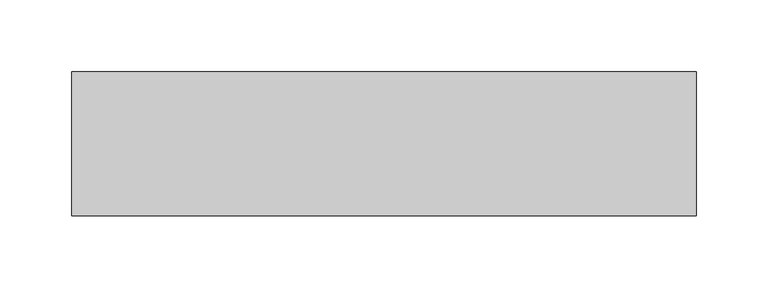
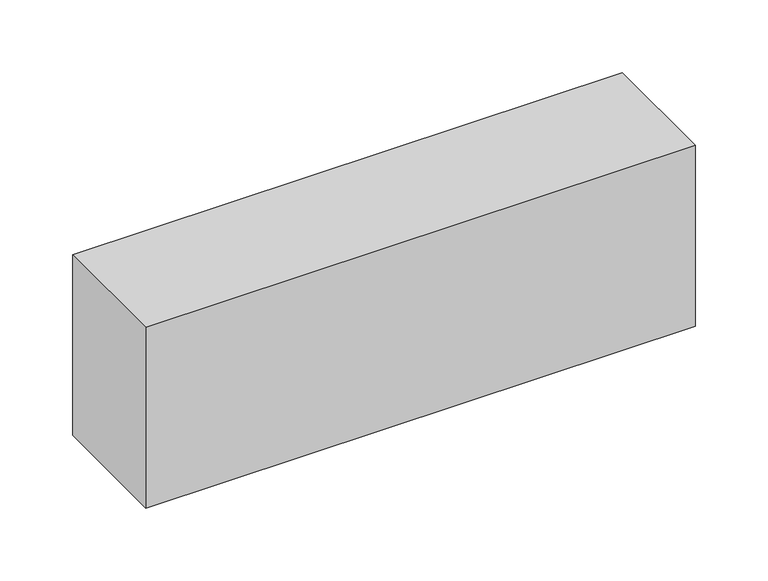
"""IFC4 building model written with IfcOpenShell, lengths in millimetres: assembly geometry, NLRS_31_WI_H11_A1vg_GM : 455 breed."""

from ifc_helpers import new_model, si_unit, frame, origin, place, context, project, spatial, polyline, outline, extrude, source, transform, mapped, element, save


def assembly_5325c99d(model_context):
    return source(origin(), model_context, "Body", "SweptSolid", [
        extrude(outline(polyline([(218.5, 166.0), (218.5, 65.0), (-218.5, 65.0), (-218.5, 166.0), (218.5, 166.0)])), frame((0.0, 0.0, 2473.0), z_axis=(0.0, 0.0, 1.0), x_axis=(1.0, 0.0, 0.0)), (0.0, 0.0, 1.0), 152.0),
    ])


if __name__ == "__main__":
    model = new_model("IFC4")
    model_context = context("Model", 3, world=origin())
    ifc_project = project(units=[si_unit("LENGTHUNIT", "METRE", prefix="MILLI")], contexts=[model_context])
    site = spatial("IfcSite", under=ifc_project)
    building = spatial("IfcBuilding", under=site)
    placement = place(None, origin())
    assembly_shape = assembly_5325c99d(model_context)
    element("IfcElementAssembly", 1, ObjectType="NLRS_31_WI_H11_A1vg_GM : 455 breed", at=placement, inside=building, context=model_context, shape_type="MappedRepresentation", body=[
        mapped(assembly_shape, transform((0.0, 0.0, 0.0), x_axis=(1.0, 0.0, 0.0), y_axis=(0.0, 1.0, 0.0), z_axis=(0.0, 0.0, 1.0))),
    ])
    save(model, "model.ifc")
